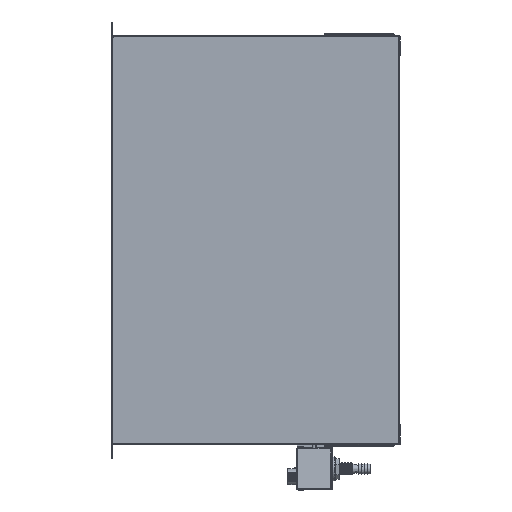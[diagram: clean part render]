
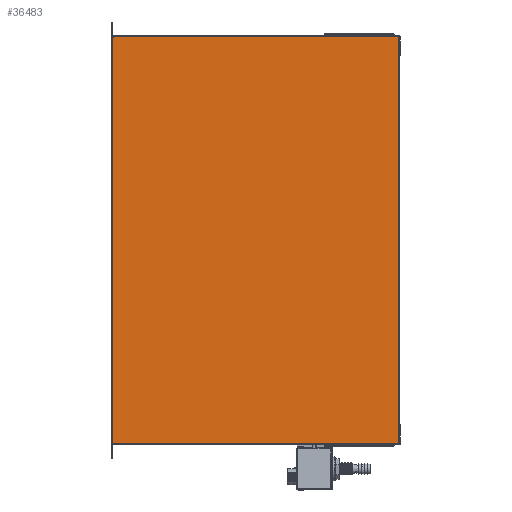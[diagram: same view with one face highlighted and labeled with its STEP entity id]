
A CAD part, front view. The second image highlights one B-rep face of the part: STEP entity #36483.
In plain terms, the highlighted planar face has unit normal (0.022, -1, 0) as drawn and (0, 0, -1) by its records, which use the part's own axes.
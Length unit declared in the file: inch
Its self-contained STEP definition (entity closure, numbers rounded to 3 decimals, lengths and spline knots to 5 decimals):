
#15 = EDGE_CURVE ( 'NONE', #12233, #34067, #25713, .T. ) ;
#598 = ORIENTED_EDGE ( 'NONE', *, *, #30268, .F. ) ;
#952 = CARTESIAN_POINT ( 'NONE',  ( 34.85265, 38.666, 0. ) ) ;
#1087 = VECTOR ( 'NONE', #42408, 39.37008 ) ;
#1185 = VECTOR ( 'NONE', #20283, 39.37008 ) ;
#1756 = CARTESIAN_POINT ( 'NONE',  ( 34.85265, 4.66731, 0. ) ) ;
#1861 = CARTESIAN_POINT ( 'NONE',  ( 10.99935, 38.666, 0. ) ) ;
#1911 = DIRECTION ( 'NONE',  ( 1., 0., 0. ) ) ;
#2263 = LINE ( 'NONE', #27206, #1185 ) ;
#3015 = ORIENTED_EDGE ( 'NONE', *, *, #12411, .F. ) ;
#4796 = LINE ( 'NONE', #41248, #30120 ) ;
#4813 = EDGE_CURVE ( 'NONE', #11285, #8081, #2263, .T. ) ;
#6043 = CARTESIAN_POINT ( 'NONE',  ( 10.99935, 38.64448, 0. ) ) ;
#6564 = LINE ( 'NONE', #9352, #24916 ) ;
#6716 = VECTOR ( 'NONE', #30292, 39.37008 ) ;
#6823 = CARTESIAN_POINT ( 'NONE',  ( 34.76053, 4.79231, 0. ) ) ;
#8081 = VERTEX_POINT ( 'NONE', #18325 ) ;
#8092 = EDGE_CURVE ( 'NONE', #33688, #12808, #41402, .T. ) ;
#8378 = VERTEX_POINT ( 'NONE', #20557 ) ;
#9352 = CARTESIAN_POINT ( 'NONE',  ( 34.76053, 4.79231, 0. ) ) ;
#10308 = CARTESIAN_POINT ( 'NONE',  ( 34.76053, 4.75516, 0. ) ) ;
#11282 = CARTESIAN_POINT ( 'NONE',  ( 34.85265, 4.75516, 0. ) ) ;
#11285 = VERTEX_POINT ( 'NONE', #37128 ) ;
#11528 = CARTESIAN_POINT ( 'NONE',  ( 34.85265, 4.79231, 0. ) ) ;
#11868 = EDGE_CURVE ( 'NONE', #33688, #39355, #6564, .T. ) ;
#12233 = VERTEX_POINT ( 'NONE', #14598 ) ;
#12411 = EDGE_CURVE ( 'NONE', #12233, #41519, #41052, .T. ) ;
#12808 = VERTEX_POINT ( 'NONE', #38079 ) ;
#13550 = VECTOR ( 'NONE', #36117, 39.37008 ) ;
#14079 = EDGE_CURVE ( 'NONE', #25352, #39355, #44707, .T. ) ;
#14336 = CARTESIAN_POINT ( 'NONE',  ( 10.99935, 4.75516, 0. ) ) ;
#14522 = ORIENTED_EDGE ( 'NONE', *, *, #22328, .F. ) ;
#14598 = CARTESIAN_POINT ( 'NONE',  ( 10.96346, 38.64448, 0. ) ) ;
#16021 = CARTESIAN_POINT ( 'NONE',  ( 10.99935, 2.99853, 0. ) ) ;
#16059 = VECTOR ( 'NONE', #36794, 39.37008 ) ;
#16520 = VECTOR ( 'NONE', #27569, 39.37008 ) ;
#16615 = AXIS2_PLACEMENT_3D ( 'NONE', #1756, #22571, #1911 ) ;
#17595 = VERTEX_POINT ( 'NONE', #19121 ) ;
#18325 = CARTESIAN_POINT ( 'NONE',  ( 34.76053, 38.62886, 0. ) ) ;
#18559 = ORIENTED_EDGE ( 'NONE', *, *, #4813, .T. ) ;
#18785 = ORIENTED_EDGE ( 'NONE', *, *, #8092, .F. ) ;
#19056 = ORIENTED_EDGE ( 'NONE', *, *, #28114, .F. ) ;
#19118 = PLANE ( 'NONE',  #16615 ) ;
#19121 = CARTESIAN_POINT ( 'NONE',  ( 34.78205, 38.62886, 0. ) ) ;
#19913 = ORIENTED_EDGE ( 'NONE', *, *, #22541, .F. ) ;
#20283 = DIRECTION ( 'NONE',  ( 0., -1., 0. ) ) ;
#20557 = CARTESIAN_POINT ( 'NONE',  ( 10.99935, 4.78968, 0. ) ) ;
#22328 = EDGE_CURVE ( 'NONE', #12808, #17595, #4796, .T. ) ;
#22541 = EDGE_CURVE ( 'NONE', #37138, #34067, #32804, .T. ) ;
#22571 = DIRECTION ( 'NONE',  ( 0., 0., 1. ) ) ;
#23049 = VECTOR ( 'NONE', #35635, 39.37008 ) ;
#23695 = VECTOR ( 'NONE', #42439, 39.37008 ) ;
#24916 = VECTOR ( 'NONE', #33438, 39.37008 ) ;
#25352 = VERTEX_POINT ( 'NONE', #14336 ) ;
#25713 = LINE ( 'NONE', #26690, #16520 ) ;
#26402 = EDGE_LOOP ( 'NONE', ( #19056, #18559, #598, #14522, #18785, #28340, #27377, #29776, #27505, #3015, #37228, #19913 ) ) ;
#26690 = CARTESIAN_POINT ( 'NONE',  ( 10.99935, 38.64448, 0. ) ) ;
#27206 = CARTESIAN_POINT ( 'NONE',  ( 34.76053, 38.62886, 0. ) ) ;
#27377 = ORIENTED_EDGE ( 'NONE', *, *, #14079, .F. ) ;
#27505 = ORIENTED_EDGE ( 'NONE', *, *, #35570, .T. ) ;
#27514 = DIRECTION ( 'NONE',  ( 0., 1., 0. ) ) ;
#27569 = DIRECTION ( 'NONE',  ( 1., 0., 0. ) ) ;
#28114 = EDGE_CURVE ( 'NONE', #11285, #37138, #39789, .T. ) ;
#28340 = ORIENTED_EDGE ( 'NONE', *, *, #11868, .T. ) ;
#29569 = FACE_OUTER_BOUND ( 'NONE', #26402, .T. ) ;
#29650 = LINE ( 'NONE', #38914, #1087 ) ;
#29776 = ORIENTED_EDGE ( 'NONE', *, *, #37222, .F. ) ;
#30120 = VECTOR ( 'NONE', #27514, 39.37008 ) ;
#30268 = EDGE_CURVE ( 'NONE', #17595, #8081, #34220, .T. ) ;
#30292 = DIRECTION ( 'NONE',  ( -1., 0., 0. ) ) ;
#32650 = CARTESIAN_POINT ( 'NONE',  ( 10.96346, 4.66731, 0. ) ) ;
#32804 = LINE ( 'NONE', #38943, #23695 ) ;
#33438 = DIRECTION ( 'NONE',  ( 0., -1., 0. ) ) ;
#33688 = VERTEX_POINT ( 'NONE', #6823 ) ;
#34067 = VERTEX_POINT ( 'NONE', #6043 ) ;
#34220 = LINE ( 'NONE', #40572, #6716 ) ;
#35570 = EDGE_CURVE ( 'NONE', #8378, #41519, #29650, .T. ) ;
#35635 = DIRECTION ( 'NONE',  ( 1., 0., 0. ) ) ;
#36117 = DIRECTION ( 'NONE',  ( 0., -1., 0. ) ) ;
#36483 = ADVANCED_FACE ( 'NONE', ( #29569 ), #19118, .F. ) ;
#36794 = DIRECTION ( 'NONE',  ( 0., -1., 0. ) ) ;
#37128 = CARTESIAN_POINT ( 'NONE',  ( 34.76053, 38.666, 0. ) ) ;
#37138 = VERTEX_POINT ( 'NONE', #1861 ) ;
#37222 = EDGE_CURVE ( 'NONE', #8378, #25352, #43587, .T. ) ;
#37228 = ORIENTED_EDGE ( 'NONE', *, *, #15, .T. ) ;
#37251 = CARTESIAN_POINT ( 'NONE',  ( 10.96346, 4.78968, 0. ) ) ;
#38079 = CARTESIAN_POINT ( 'NONE',  ( 34.78205, 4.79231, 0. ) ) ;
#38914 = CARTESIAN_POINT ( 'NONE',  ( 10.99935, 4.78968, 0. ) ) ;
#38943 = CARTESIAN_POINT ( 'NONE',  ( 10.99935, 38.72261, 0. ) ) ;
#39355 = VERTEX_POINT ( 'NONE', #10308 ) ;
#39789 = LINE ( 'NONE', #952, #44683 ) ;
#40572 = CARTESIAN_POINT ( 'NONE',  ( 34.85265, 38.62886, 0. ) ) ;
#41052 = LINE ( 'NONE', #32650, #13550 ) ;
#41248 = CARTESIAN_POINT ( 'NONE',  ( 34.78205, 4.66731, 0. ) ) ;
#41402 = LINE ( 'NONE', #11528, #23049 ) ;
#41519 = VERTEX_POINT ( 'NONE', #37251 ) ;
#42216 = DIRECTION ( 'NONE',  ( 1., 0., 0. ) ) ;
#42284 = DIRECTION ( 'NONE',  ( -1., 0., 0. ) ) ;
#42408 = DIRECTION ( 'NONE',  ( -1., 0., 0. ) ) ;
#42439 = DIRECTION ( 'NONE',  ( 0., -1., 0. ) ) ;
#43587 = LINE ( 'NONE', #16021, #16059 ) ;
#43622 = VECTOR ( 'NONE', #42216, 39.37008 ) ;
#44683 = VECTOR ( 'NONE', #42284, 39.37008 ) ;
#44707 = LINE ( 'NONE', #11282, #43622 ) ;
